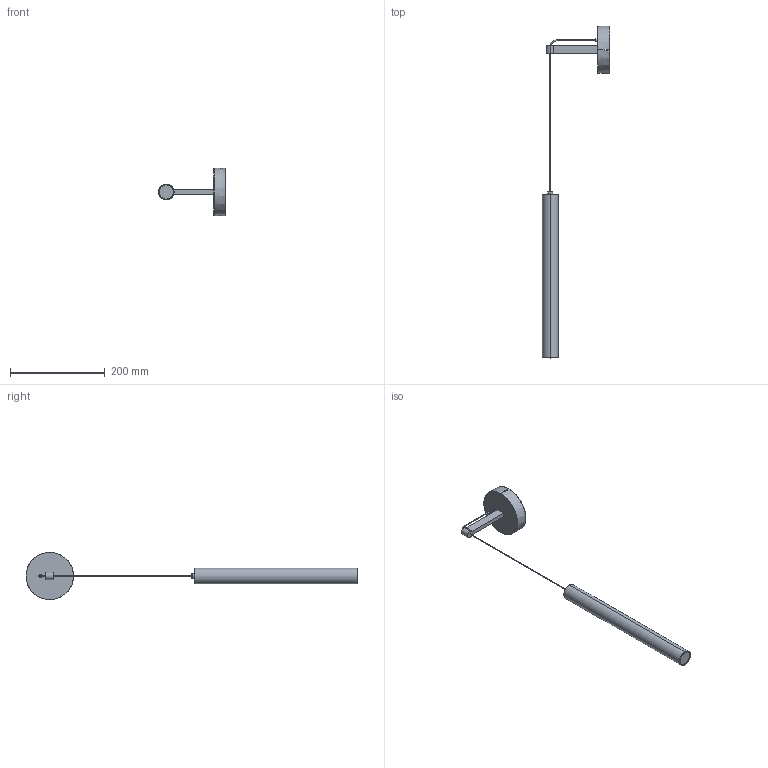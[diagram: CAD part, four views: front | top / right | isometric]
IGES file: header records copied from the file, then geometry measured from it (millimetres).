
Start section: SolidWorks IGES file using analytic representation for surfaces
Global section: file name: F:\燠隴矨\3D\2025-9\Brass Line Wall Light.IGS,15; native system: HSolidWorks 2022; preprocessor: SolidWorks 2022; author: MyPC; date: 250928.163237; units: millimetre
Bounding box: 141.5 x 700 x 100 mm (x, y, z)
Surface area: 77817.4 mm2 (no closed solid volume)
Topology: 0 solids, 0 shells, 48 faces, 1114 edges, 1114 vertices
Faces by surface type: revolution 25, bspline 23
